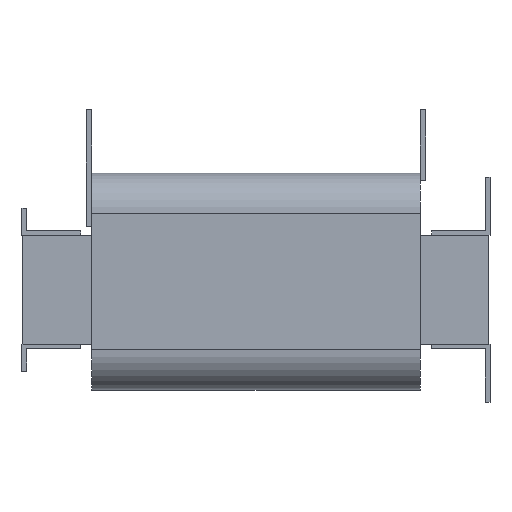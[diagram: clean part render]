
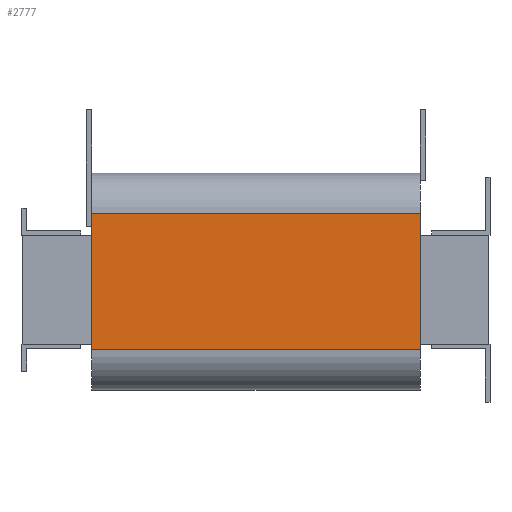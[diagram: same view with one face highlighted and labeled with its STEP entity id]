
A CAD part, left-side view. The second image highlights one B-rep face of the part: STEP entity #2777.
In plain terms, the highlighted planar face has unit normal (-1, 0, 0).
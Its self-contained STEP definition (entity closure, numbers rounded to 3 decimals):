
#126=PLANE('',#2999);
#261=FACE_OUTER_BOUND('',#429,.T.);
#429=EDGE_LOOP('',(#2389,#2390,#2391,#2392));
#712=LINE('',#4376,#1044);
#731=LINE('',#4426,#1063);
#732=LINE('',#4429,#1064);
#733=LINE('',#4430,#1065);
#1044=VECTOR('',#3581,10.);
#1063=VECTOR('',#3626,10.);
#1064=VECTOR('',#3629,10.);
#1065=VECTOR('',#3630,10.);
#1397=VERTEX_POINT('',#4373);
#1398=VERTEX_POINT('',#4375);
#1416=VERTEX_POINT('',#4424);
#1417=VERTEX_POINT('',#4428);
#1742=EDGE_CURVE('',#1397,#1398,#712,.T.);
#1768=EDGE_CURVE('',#1416,#1397,#731,.T.);
#1769=EDGE_CURVE('',#1416,#1417,#732,.T.);
#1770=EDGE_CURVE('',#1398,#1417,#733,.T.);
#2389=ORIENTED_EDGE('',*,*,#1768,.F.);
#2390=ORIENTED_EDGE('',*,*,#1769,.T.);
#2391=ORIENTED_EDGE('',*,*,#1770,.F.);
#2392=ORIENTED_EDGE('',*,*,#1742,.F.);
#2777=ADVANCED_FACE('',(#261),#126,.T.);
#2999=AXIS2_PLACEMENT_3D('',#4427,#3627,#3628);
#3581=DIRECTION('',(0.,0.,1.));
#3626=DIRECTION('',(0.,1.,0.));
#3627=DIRECTION('center_axis',(-1.,0.,0.));
#3628=DIRECTION('ref_axis',(0.,0.,1.));
#3629=DIRECTION('',(0.,0.,1.));
#3630=DIRECTION('',(0.,-1.,0.));
#4373=CARTESIAN_POINT('',(-286.,442.5,-66.5));
#4375=CARTESIAN_POINT('',(-286.,442.5,84.5));
#4376=CARTESIAN_POINT('',(-286.,442.5,-111.5));
#4424=CARTESIAN_POINT('',(-286.,77.5,-66.5));
#4426=CARTESIAN_POINT('',(-286.,77.5,-66.5));
#4427=CARTESIAN_POINT('Origin',(-286.,77.5,-111.5));
#4428=CARTESIAN_POINT('',(-286.,77.5,84.5));
#4429=CARTESIAN_POINT('',(-286.,77.5,-111.5));
#4430=CARTESIAN_POINT('',(-286.,77.5,84.5));
